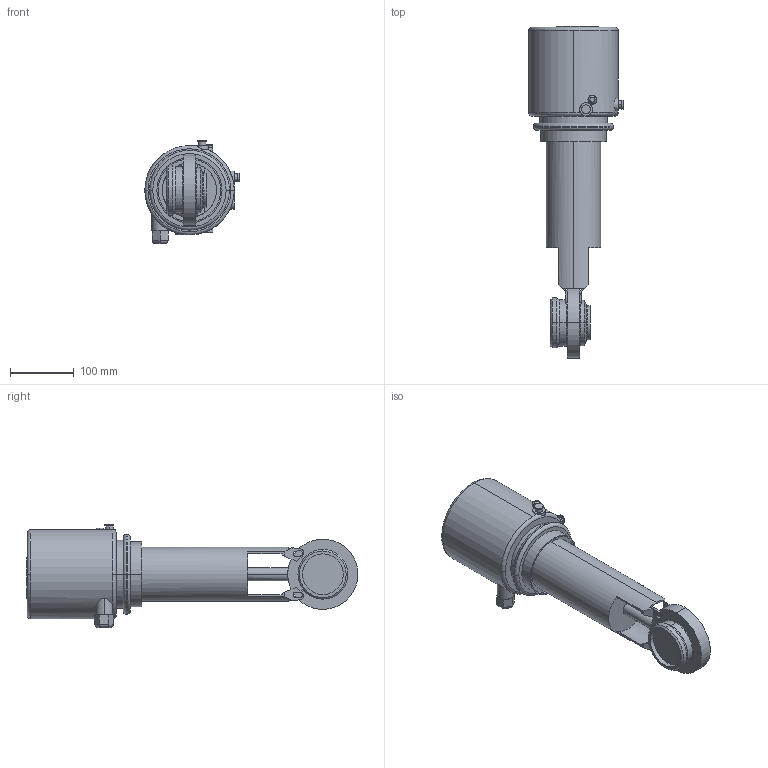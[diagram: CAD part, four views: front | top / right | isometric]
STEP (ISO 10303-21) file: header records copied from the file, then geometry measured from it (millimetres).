
FILE_DESCRIPTION(('Creo Elements/Direct Modeling STEP Export'),'2;1');
FILE_NAME('SV1-50-CU4-1S2G.stp','2014-07-07T14:44:35',(''),(''),'Creo Elements/Direct Modeling STEP processor for AP214 (Solid Model)','Creo Elements/Direct Modeling 17.0D 15-Jul-2011 (C) Parametric Technology GmbH','');
FILE_SCHEMA(('AUTOMOTIVE_DESIGN { 1 0 10303 214 1 1 1 1 }'));
Length unit declared in the file: millimetre
Products named in the file (3): SV1-50-FZ-1S2G; CU4-T-SPX_logo; SV1-50-CU4-1S2G
Assembly tree (2 placements, depth 2):
  SV1-50-CU4-1S2G
    CU4-T-SPX_logo
    SV1-50-FZ-1S2G
Bounding box: 148 x 519.88 x 161.4 mm (x, y, z)
Volume: 3839709.8 mm3; surface area: 230820.6 mm2
Topology: 2 solids, 2 shells, 261 faces, 685 edges, 438 vertices
Faces by surface type: plane 115, cylinder 89, extrusion 33, torus 18, cone 6
Entity records: 11822 total; most frequent: CARTESIAN_POINT 5715, ORIENTED_EDGE 1370, DIRECTION 1099, EDGE_CURVE 685, VERTEX_POINT 438, AXIS2_PLACEMENT_3D 381, VECTOR 337, LINE 304
